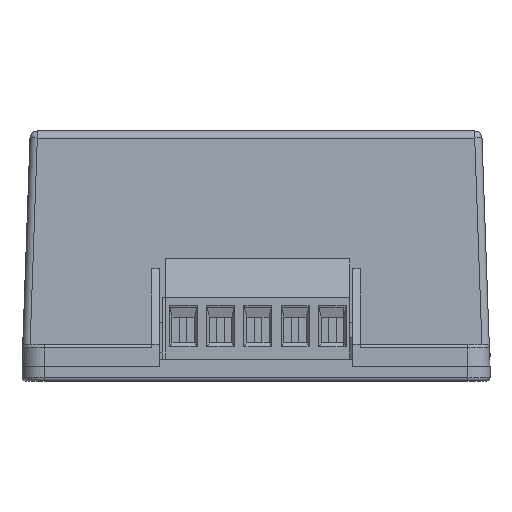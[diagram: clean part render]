
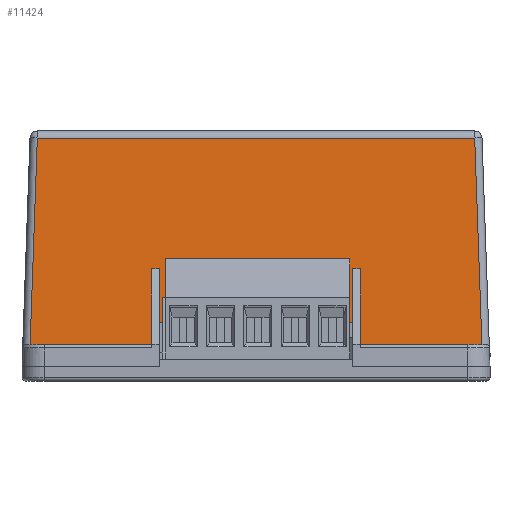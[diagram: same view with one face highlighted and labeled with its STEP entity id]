
A CAD part, front view. The second image highlights one B-rep face of the part: STEP entity #11424.
In plain terms, the highlighted planar face has unit normal (0, -0.999, 0.035) as drawn and (0.999, 0, 0.035) by its records, which use the part's own axes.
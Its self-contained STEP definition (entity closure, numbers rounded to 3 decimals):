
#1359=FACE_OUTER_BOUND('',#2117,.T.);
#2117=EDGE_LOOP('',(#10275,#10276,#10277,#10278,#10279,#10280,#10281,#10282,
#10283,#10284,#10285,#10286));
#2810=LINE('',#17130,#4030);
#2966=LINE('',#17939,#4186);
#3074=LINE('',#18403,#4294);
#3075=LINE('',#18405,#4295);
#3246=LINE('',#18858,#4466);
#3332=LINE('',#19152,#4552);
#3339=LINE('',#19165,#4559);
#3341=LINE('',#19169,#4561);
#3342=LINE('',#19171,#4562);
#3343=LINE('',#19172,#4563);
#3344=LINE('',#19174,#4564);
#3345=LINE('',#19175,#4565);
#4030=VECTOR('',#14048,59.627);
#4186=VECTOR('',#14328,16.596);
#4294=VECTOR('',#14662,28.169);
#4295=VECTOR('',#14665,28.169);
#4466=VECTOR('',#15086,7.31);
#4552=VECTOR('',#15286,26.4);
#4559=VECTOR('',#15301,7.31);
#4561=VECTOR('',#15305,16.596);
#4562=VECTOR('',#15306,10.311);
#4563=VECTOR('',#15307,1.);
#4564=VECTOR('',#15308,1.);
#4565=VECTOR('',#15309,10.311);
#5146=VERTEX_POINT('',#17118);
#5149=VERTEX_POINT('',#17127);
#5323=VERTEX_POINT('',#17936);
#5324=VERTEX_POINT('',#17938);
#5429=VERTEX_POINT('',#18401);
#5578=VERTEX_POINT('',#18855);
#5579=VERTEX_POINT('',#18857);
#5629=VERTEX_POINT('',#19151);
#5631=VERTEX_POINT('',#19164);
#5632=VERTEX_POINT('',#19168);
#5633=VERTEX_POINT('',#19170);
#5634=VERTEX_POINT('',#19173);
#6473=EDGE_CURVE('',#5146,#5149,#2810,.T.);
#6700=EDGE_CURVE('',#5323,#5324,#2966,.T.);
#6865=EDGE_CURVE('',#5429,#5146,#3074,.T.);
#6866=EDGE_CURVE('',#5149,#5323,#3075,.T.);
#7087=EDGE_CURVE('',#5579,#5578,#3246,.T.);
#7188=EDGE_CURVE('',#5629,#5579,#3332,.T.);
#7195=EDGE_CURVE('',#5631,#5629,#3339,.T.);
#7197=EDGE_CURVE('',#5632,#5429,#3341,.T.);
#7198=EDGE_CURVE('',#5632,#5633,#3342,.T.);
#7199=EDGE_CURVE('',#5633,#5631,#3343,.T.);
#7200=EDGE_CURVE('',#5578,#5634,#3344,.T.);
#7201=EDGE_CURVE('',#5634,#5324,#3345,.T.);
#10275=ORIENTED_EDGE('',*,*,#6865,.F.);
#10276=ORIENTED_EDGE('',*,*,#7197,.F.);
#10277=ORIENTED_EDGE('',*,*,#7198,.T.);
#10278=ORIENTED_EDGE('',*,*,#7199,.T.);
#10279=ORIENTED_EDGE('',*,*,#7195,.T.);
#10280=ORIENTED_EDGE('',*,*,#7188,.T.);
#10281=ORIENTED_EDGE('',*,*,#7087,.T.);
#10282=ORIENTED_EDGE('',*,*,#7200,.T.);
#10283=ORIENTED_EDGE('',*,*,#7201,.T.);
#10284=ORIENTED_EDGE('',*,*,#6700,.F.);
#10285=ORIENTED_EDGE('',*,*,#6866,.F.);
#10286=ORIENTED_EDGE('',*,*,#6473,.F.);
#10804=PLANE('',#12328);
#11424=ADVANCED_FACE('',(#1359),#10804,.T.);
#12328=AXIS2_PLACEMENT_3D('',#19167,#15303,#15304);
#14048=DIRECTION('',(0.,1.,0.));
#14328=DIRECTION('',(0.,-1.,0.));
#14662=DIRECTION('',(-0.035,0.035,0.999));
#14665=DIRECTION('',(0.035,0.035,-0.999));
#15086=DIRECTION('',(-0.035,0.,0.999));
#15286=DIRECTION('',(0.,1.,0.));
#15301=DIRECTION('',(0.035,0.,-0.999));
#15303=DIRECTION('center_axis',(0.999,0.,
0.035));
#15304=DIRECTION('ref_axis',(0.035,0.,-0.999));
#15305=DIRECTION('',(0.,-1.,0.));
#15306=DIRECTION('',(-0.035,0.,0.999));
#15307=DIRECTION('',(0.,1.,0.));
#15308=DIRECTION('',(0.,1.,0.));
#15309=DIRECTION('',(0.035,0.,-0.999));
#17118=CARTESIAN_POINT('',(44.968,-29.813,31.135));
#17127=CARTESIAN_POINT('',(44.968,29.813,31.135));
#17130=CARTESIAN_POINT('',(44.968,15.95,31.135));
#17936=CARTESIAN_POINT('',(45.95,30.796,3.));
#17938=CARTESIAN_POINT('',(45.95,14.2,3.));
#17939=CARTESIAN_POINT('',(45.95,15.95,3.));
#18401=CARTESIAN_POINT('',(45.95,-30.796,3.));
#18403=CARTESIAN_POINT('',(45.971,-30.817,2.401));
#18405=CARTESIAN_POINT('',(45.942,30.787,3.241));
#18855=CARTESIAN_POINT('',(45.59,13.2,13.305));
#18857=CARTESIAN_POINT('',(45.845,13.2,6.));
#18858=CARTESIAN_POINT('',(45.552,13.2,14.406));
#19151=CARTESIAN_POINT('',(45.845,-13.2,6.));
#19152=CARTESIAN_POINT('',(45.845,22.55,6.));
#19164=CARTESIAN_POINT('',(45.59,-13.2,13.305));
#19165=CARTESIAN_POINT('',(45.552,-13.2,14.406));
#19167=CARTESIAN_POINT('Origin',(45.95,31.9,3.));
#19168=CARTESIAN_POINT('',(45.95,-14.2,3.));
#19169=CARTESIAN_POINT('',(45.95,15.95,3.));
#19170=CARTESIAN_POINT('',(45.59,-14.2,13.305));
#19171=CARTESIAN_POINT('',(45.552,-14.2,14.406));
#19172=CARTESIAN_POINT('',(45.59,9.1,13.305));
#19173=CARTESIAN_POINT('',(45.59,14.2,13.305));
#19174=CARTESIAN_POINT('',(45.59,22.8,13.305));
#19175=CARTESIAN_POINT('',(45.552,14.2,14.406));
